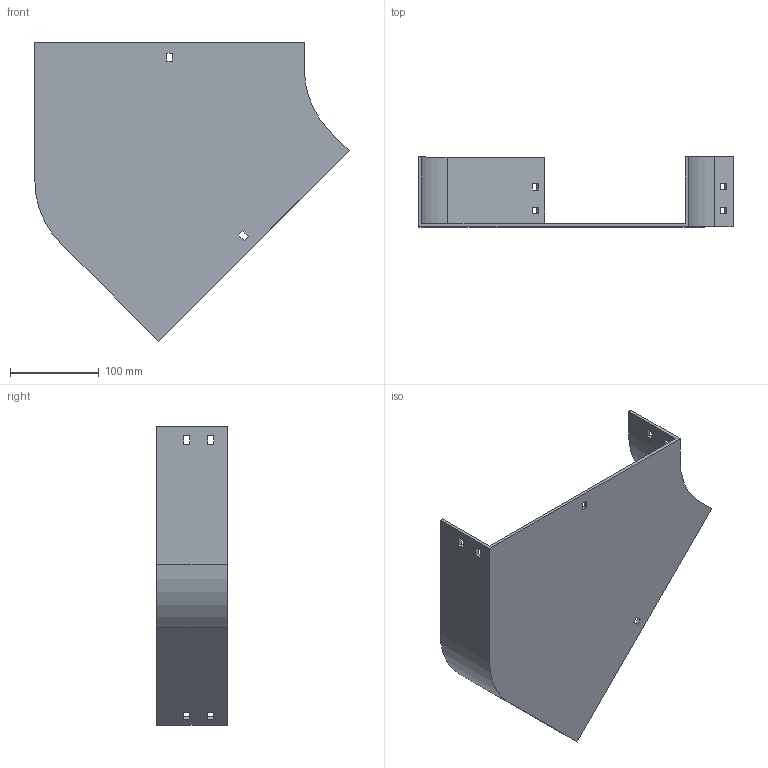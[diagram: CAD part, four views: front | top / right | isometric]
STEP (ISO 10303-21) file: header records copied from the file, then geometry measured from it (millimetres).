
FILE_DESCRIPTION (( 'STEP AP214' ), '1' );
FILE_NAME ('11F1C300.step', '2025-02-21T12:56:08', ( '' ), ( '' ), 'SwSTEP 2.0', 'SolidWorks 2023', '' );
FILE_SCHEMA (( 'AUTOMOTIVE_DESIGN' ));
Length unit declared in the file: millimetre
Products named in the file (1): 11F1C300
Bounding box: 354.5 x 79 x 336.88 mm (x, y, z)
Volume: 423362.5 mm3; surface area: 248126.7 mm2
Topology: 1 solids, 1 shells, 58 faces, 168 edges, 112 vertices
Faces by surface type: plane 54, cylinder 4
Entity records: 1943 total; most frequent: CARTESIAN_POINT 339, ORIENTED_EDGE 336, DIRECTION 294, EDGE_CURVE 168, VECTOR 160, LINE 160, VERTEX_POINT 112, EDGE_LOOP 78
